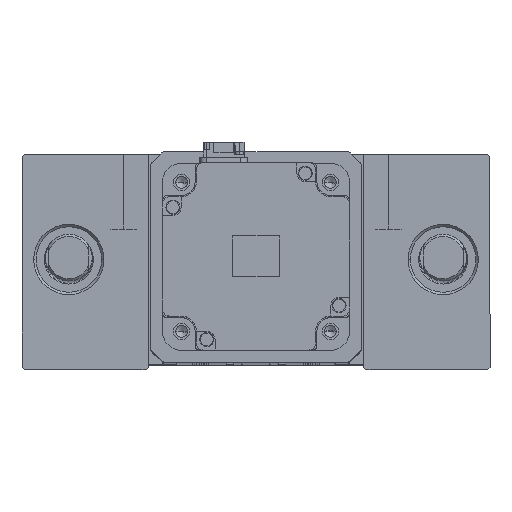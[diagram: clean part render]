
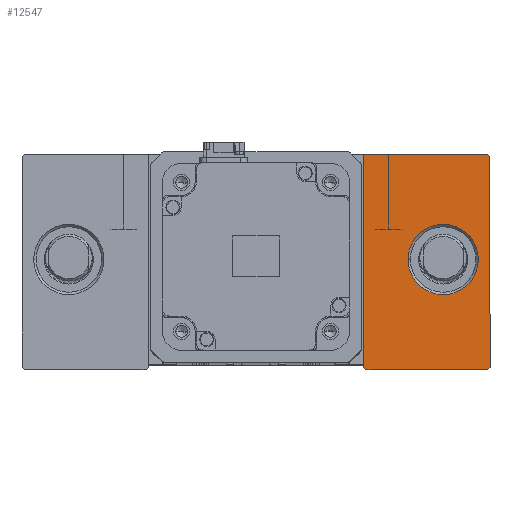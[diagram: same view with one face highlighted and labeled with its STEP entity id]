
A CAD part, top view. The second image highlights one B-rep face of the part: STEP entity #12547.
In plain terms, the highlighted planar face has unit normal (0, 0, 1).
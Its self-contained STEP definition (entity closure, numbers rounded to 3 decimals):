
#689 = DIRECTION ( 'NONE',  ( 0., 1., 0. ) ) ;
#1290 = VERTEX_POINT ( 'NONE', #13747 ) ;
#1714 = CARTESIAN_POINT ( 'NONE',  ( 99., 45., 35. ) ) ;
#1982 = VECTOR ( 'NONE', #16142, 1000. ) ;
#2375 = DIRECTION ( 'NONE',  ( 1., 0., 0. ) ) ;
#2831 = CIRCLE ( 'NONE', #23532, 15. ) ;
#3116 = LINE ( 'NONE', #15238, #34083 ) ;
#3238 = EDGE_LOOP ( 'NONE', ( #13100, #5227, #15017, #21576, #15310, #21221, #13692 ) ) ;
#3329 = LINE ( 'NONE', #26549, #43396 ) ;
#4109 = ORIENTED_EDGE ( 'NONE', *, *, #11855, .T. ) ;
#4725 = EDGE_CURVE ( 'NONE', #1290, #24054, #11204, .T. ) ;
#4958 = EDGE_CURVE ( 'NONE', #49085, #44946, #37913, .T. ) ;
#5227 = ORIENTED_EDGE ( 'NONE', *, *, #7865, .T. ) ;
#7524 = CARTESIAN_POINT ( 'NONE',  ( 0., 0., 35. ) ) ;
#7865 = EDGE_CURVE ( 'NONE', #25771, #35321, #14586, .T. ) ;
#10375 = CARTESIAN_POINT ( 'NONE',  ( 46., -47., 35. ) ) ;
#11204 = LINE ( 'NONE', #47191, #17873 ) ;
#11855 = EDGE_CURVE ( 'NONE', #44946, #49085, #2831, .T. ) ;
#12547 = ADVANCED_FACE ( 'NONE', ( #24030, #43419 ), #18870, .T. ) ;
#13100 = ORIENTED_EDGE ( 'NONE', *, *, #37695, .T. ) ;
#13360 = VECTOR ( 'NONE', #26880, 1000. ) ;
#13692 = ORIENTED_EDGE ( 'NONE', *, *, #30313, .T. ) ;
#13747 = CARTESIAN_POINT ( 'NONE',  ( 100., -46., 35. ) ) ;
#14080 = CARTESIAN_POINT ( 'NONE',  ( 46., 45., 35. ) ) ;
#14586 = LINE ( 'NONE', #7524, #13360 ) ;
#15017 = ORIENTED_EDGE ( 'NONE', *, *, #31077, .T. ) ;
#15238 = CARTESIAN_POINT ( 'NONE',  ( 46., 45., 35. ) ) ;
#15310 = ORIENTED_EDGE ( 'NONE', *, *, #4725, .T. ) ;
#16142 = DIRECTION ( 'NONE',  ( 0.707, 0.707, 0. ) ) ;
#17499 = EDGE_CURVE ( 'NONE', #24054, #30208, #3329, .T. ) ;
#17873 = VECTOR ( 'NONE', #689, 1000. ) ;
#18613 = DIRECTION ( 'NONE',  ( 0., 0., -1. ) ) ;
#18868 = CARTESIAN_POINT ( 'NONE',  ( 100., 44., 35. ) ) ;
#18870 = PLANE ( 'NONE',  #47616 ) ;
#18982 = DIRECTION ( 'NONE',  ( 0., -1., 0. ) ) ;
#20243 = ORIENTED_EDGE ( 'NONE', *, *, #4958, .T. ) ;
#21221 = ORIENTED_EDGE ( 'NONE', *, *, #17499, .T. ) ;
#21576 = ORIENTED_EDGE ( 'NONE', *, *, #41649, .T. ) ;
#22859 = LINE ( 'NONE', #10375, #31978 ) ;
#22950 = DIRECTION ( 'NONE',  ( 0., 0., 1. ) ) ;
#23532 = AXIS2_PLACEMENT_3D ( 'NONE', #41852, #18613, #45751 ) ;
#24030 = FACE_BOUND ( 'NONE', #41724, .T. ) ;
#24054 = VERTEX_POINT ( 'NONE', #18868 ) ;
#24964 = CARTESIAN_POINT ( 'NONE',  ( 65., 0., 35. ) ) ;
#25099 = CARTESIAN_POINT ( 'NONE',  ( 47., -47., 35. ) ) ;
#25438 = CARTESIAN_POINT ( 'NONE',  ( 99., -47., 35. ) ) ;
#25627 = DIRECTION ( 'NONE',  ( 0., 0., -1. ) ) ;
#25771 = VERTEX_POINT ( 'NONE', #27154 ) ;
#26549 = CARTESIAN_POINT ( 'NONE',  ( 72., 72., 35. ) ) ;
#26880 = DIRECTION ( 'NONE',  ( 0.707, -0.707, 0. ) ) ;
#27154 = CARTESIAN_POINT ( 'NONE',  ( 46., -46., 35. ) ) ;
#30208 = VERTEX_POINT ( 'NONE', #1714 ) ;
#30313 = EDGE_CURVE ( 'NONE', #30208, #35359, #39954, .T. ) ;
#30864 = VECTOR ( 'NONE', #41242, 1000. ) ;
#31077 = EDGE_CURVE ( 'NONE', #35321, #49381, #22859, .T. ) ;
#31978 = VECTOR ( 'NONE', #41434, 1000. ) ;
#33236 = CARTESIAN_POINT ( 'NONE',  ( 46., 45., 35. ) ) ;
#34083 = VECTOR ( 'NONE', #18982, 1000. ) ;
#35321 = VERTEX_POINT ( 'NONE', #25099 ) ;
#35359 = VERTEX_POINT ( 'NONE', #33236 ) ;
#36706 = CARTESIAN_POINT ( 'NONE',  ( 95., 0., 35. ) ) ;
#37695 = EDGE_CURVE ( 'NONE', #35359, #25771, #3116, .T. ) ;
#37913 = CIRCLE ( 'NONE', #42113, 15. ) ;
#38385 = CARTESIAN_POINT ( 'NONE',  ( 0., 0., 35. ) ) ;
#39954 = LINE ( 'NONE', #14080, #30864 ) ;
#41242 = DIRECTION ( 'NONE',  ( -1., 0., 0. ) ) ;
#41434 = DIRECTION ( 'NONE',  ( 1., 0., 0. ) ) ;
#41649 = EDGE_CURVE ( 'NONE', #49381, #1290, #48727, .T. ) ;
#41724 = EDGE_LOOP ( 'NONE', ( #20243, #4109 ) ) ;
#41852 = CARTESIAN_POINT ( 'NONE',  ( 80., 0., 35. ) ) ;
#42113 = AXIS2_PLACEMENT_3D ( 'NONE', #48866, #25627, #2375 ) ;
#43280 = CARTESIAN_POINT ( 'NONE',  ( 73., -73., 35. ) ) ;
#43396 = VECTOR ( 'NONE', #46035, 1000. ) ;
#43419 = FACE_OUTER_BOUND ( 'NONE', #3238, .T. ) ;
#44946 = VERTEX_POINT ( 'NONE', #24964 ) ;
#45751 = DIRECTION ( 'NONE',  ( 1., 0., 0. ) ) ;
#46035 = DIRECTION ( 'NONE',  ( -0.707, 0.707, 0. ) ) ;
#47191 = CARTESIAN_POINT ( 'NONE',  ( 100., 45., 35. ) ) ;
#47616 = AXIS2_PLACEMENT_3D ( 'NONE', #38385, #22950, #50117 ) ;
#48727 = LINE ( 'NONE', #43280, #1982 ) ;
#48866 = CARTESIAN_POINT ( 'NONE',  ( 80., 0., 35. ) ) ;
#49085 = VERTEX_POINT ( 'NONE', #36706 ) ;
#49381 = VERTEX_POINT ( 'NONE', #25438 ) ;
#50117 = DIRECTION ( 'NONE',  ( 1., 0., 0. ) ) ;
